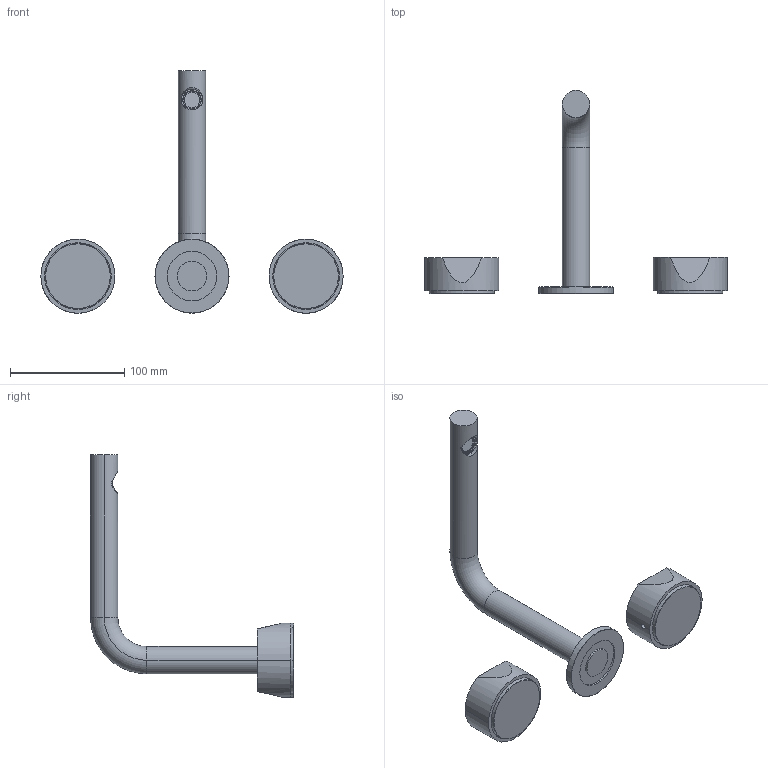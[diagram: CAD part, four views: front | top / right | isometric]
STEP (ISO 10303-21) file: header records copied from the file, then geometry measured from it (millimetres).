
FILE_DESCRIPTION((''),'2;1');
FILE_NAME('3D','2024-04-18T13:52:20',('cristian.dorz'),(''),'CREO PARAMETRIC BY PTC INC, 2022281','CREO PARAMETRIC BY PTC INC, 2022281','');
FILE_SCHEMA(('AUTOMOTIVE_DESIGN { 1 0 10303 214 1 1 1 1 }'));
Length unit declared in the file: millimetre
Products named in the file (1): 3D
Bounding box: 265 x 178 x 212.5 mm (x, y, z)
Volume: 349171.8 mm3; surface area: 68005.9 mm2
Topology: 3 solids, 6 shells, 147 faces, 361 edges, 235 vertices
Faces by surface type: plane 66, cylinder 56, cone 17, torus 8
Entity records: 6463 total; most frequent: CARTESIAN_POINT 1652, DIRECTION 833, ORIENTED_EDGE 694, EDGE_CURVE 347, AXIS2_PLACEMENT_3D 338, VERTEX_POINT 221, CIRCLE 180, EDGE_LOOP 164
